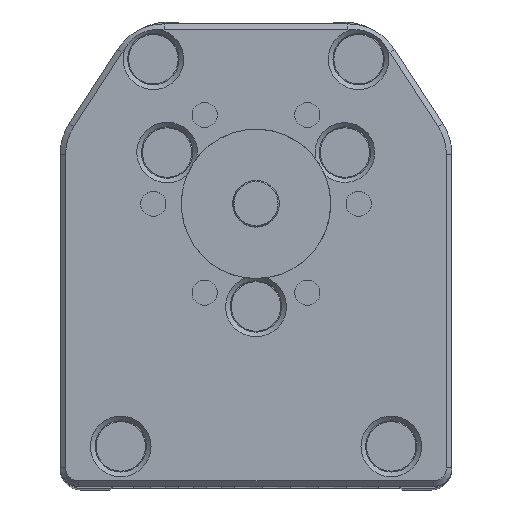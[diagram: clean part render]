
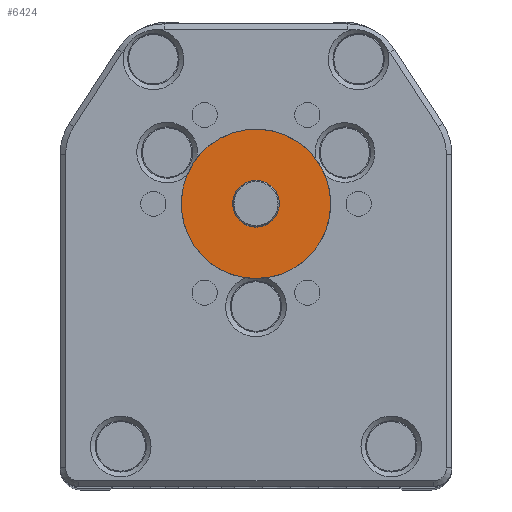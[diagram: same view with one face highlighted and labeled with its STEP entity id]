
A CAD part, top view. The second image highlights one B-rep face of the part: STEP entity #6424.
In plain terms, the highlighted planar face has unit normal (0, 0, 1).
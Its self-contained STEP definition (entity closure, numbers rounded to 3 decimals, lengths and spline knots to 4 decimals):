
#6424=ADVANCED_FACE('',(#8107,#8108),#7687,.T.);
#7687=PLANE('',#23928);
#8107=FACE_BOUND('',#8665,.T.);
#8108=FACE_BOUND('',#8666,.T.);
#8665=EDGE_LOOP('',(#11719));
#8666=EDGE_LOOP('',(#11720));
#11719=ORIENTED_EDGE('',*,*,#19999,.F.);
#11720=ORIENTED_EDGE('',*,*,#20000,.T.);
#17541=VERTEX_POINT('',#34518);
#17542=VERTEX_POINT('',#34520);
#19999=EDGE_CURVE('',#17541,#17541,#22587,.T.);
#20000=EDGE_CURVE('',#17542,#17542,#22588,.T.);
#22587=CIRCLE('',#23926,2.5);
#22588=CIRCLE('',#23927,8.);
#23926=AXIS2_PLACEMENT_3D('',#34517,#27589,#27590);
#23927=AXIS2_PLACEMENT_3D('',#34519,#27591,#27592);
#23928=AXIS2_PLACEMENT_3D('',#34521,#27593,#27594);
#27589=DIRECTION('',(0.,0.,1.));
#27590=DIRECTION('',(1.,0.,0.));
#27591=DIRECTION('',(0.,0.,1.));
#27592=DIRECTION('',(0.,-1.,0.));
#27593=DIRECTION('',(0.,0.,1.));
#27594=DIRECTION('',(1.,0.,0.));
#34517=CARTESIAN_POINT('',(0.,0.,1.5));
#34518=CARTESIAN_POINT('',(2.5,0.,1.5));
#34519=CARTESIAN_POINT('',(0.,0.,1.5));
#34520=CARTESIAN_POINT('',(0.,-8.,1.5));
#34521=CARTESIAN_POINT('',(0.,0.,1.5));
